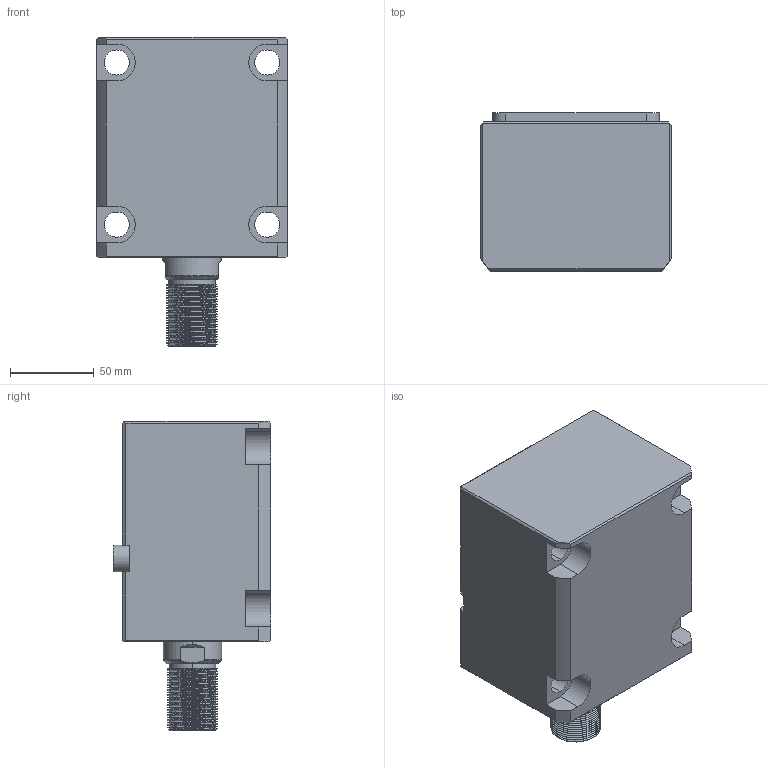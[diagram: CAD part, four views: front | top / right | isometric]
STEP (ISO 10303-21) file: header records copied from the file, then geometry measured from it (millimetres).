
FILE_DESCRIPTION (( 'STEP AP214' ), '1' );
FILE_NAME ('chtb-lam63x65w_asm.STEP', '2018-05-22T03:40:01', ( 'Windows' ), ( 'Microsoft' ), 'SwSTEP 2.0', 'SolidWorks 2015', '' );
FILE_SCHEMA (( 'AUTOMOTIVE_DESIGN' ));
Length unit declared in the file: millimetre
Products named in the file (5): CHTB-LAM63X65NBT; CHTB-LA63PJ; CHTB63X65WHSG; CHTB-63QG; chtb-lam63x65w_asm
Assembly tree (4 placements, depth 2):
  chtb-lam63x65w_asm
    CHTB-63QG
    CHTB63X65WHSG
    CHTB-LA63PJ
    CHTB-LAM63X65NBT
Bounding box: 114 x 94.5 x 185 mm (x, y, z)
Volume: 1161126.9 mm3; surface area: 166551.5 mm2
Topology: 4 solids, 4 shells, 236 faces, 696 edges, 473 vertices
Faces by surface type: cylinder 148, plane 58, bspline 15, cone 9, torus 6
Entity records: 23566 total; most frequent: CARTESIAN_POINT 17780, ORIENTED_EDGE 1384, DIRECTION 946, EDGE_CURVE 692, VERTEX_POINT 473, AXIS2_PLACEMENT_3D 344, EDGE_LOOP 259, VECTOR 258
